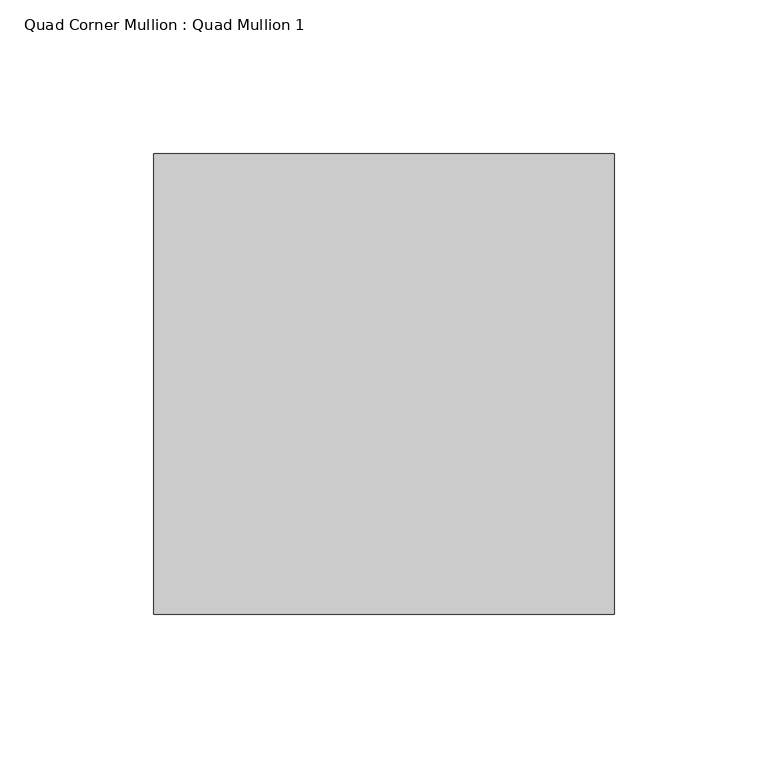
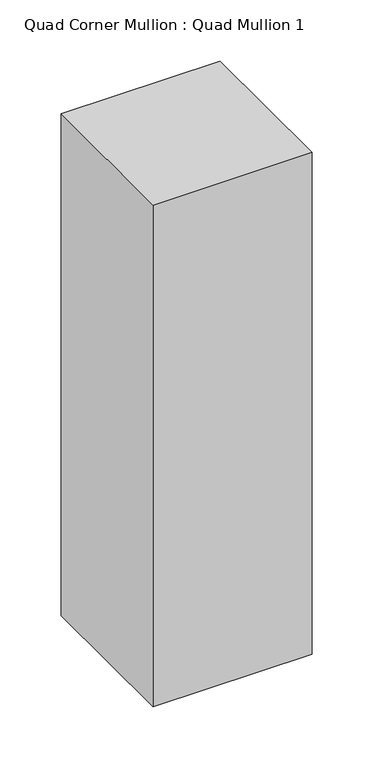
"""IFC4 building model written with IfcOpenShell, lengths in millimetres: member geometry, Quad Corner Mullion : Quad Mullion 1."""

from ifc_helpers import new_model, si_unit, frame, origin, place, context, project, spatial, polyline, outline, extrude, source, transform, mapped, element, save


def quad_corner_mullion_quad_mullion_1_257211b5(model_context):
    return source(origin(), model_context, "Body", "SweptSolid", [
        extrude(outline(polyline([(75.0, 75.0), (75.0, -75.0), (-75.0, -75.0), (-75.0, 75.0), (75.0, 75.0)])), frame((0.0, 0.0, -500.0), z_axis=(0.0, 0.0, 1.0), x_axis=(1.0, 0.0, 0.0)), (0.0, 0.0, 1.0), 500.0),
    ])


if __name__ == "__main__":
    model = new_model("IFC4")
    model_context = context("Model", 3, world=origin())
    ifc_project = project(units=[si_unit("LENGTHUNIT", "METRE", prefix="MILLI")], contexts=[model_context])
    site = spatial("IfcSite", under=ifc_project)
    building = spatial("IfcBuilding", under=site)
    placement = place(None, origin())
    quad_corner_mullion_quad_mullion_1_shape = quad_corner_mullion_quad_mullion_1_257211b5(model_context)
    element("IfcMember", 1, ObjectType="Quad Corner Mullion : Quad Mullion 1", at=placement, inside=building, context=model_context, shape_type="MappedRepresentation", body=[
        mapped(quad_corner_mullion_quad_mullion_1_shape, transform((0.0, 0.0, 0.0), x_axis=(1.0, 0.0, 0.0), y_axis=(0.0, 1.0, 0.0), z_axis=(0.0, 0.0, 1.0))),
    ])
    save(model, "model.ifc")
